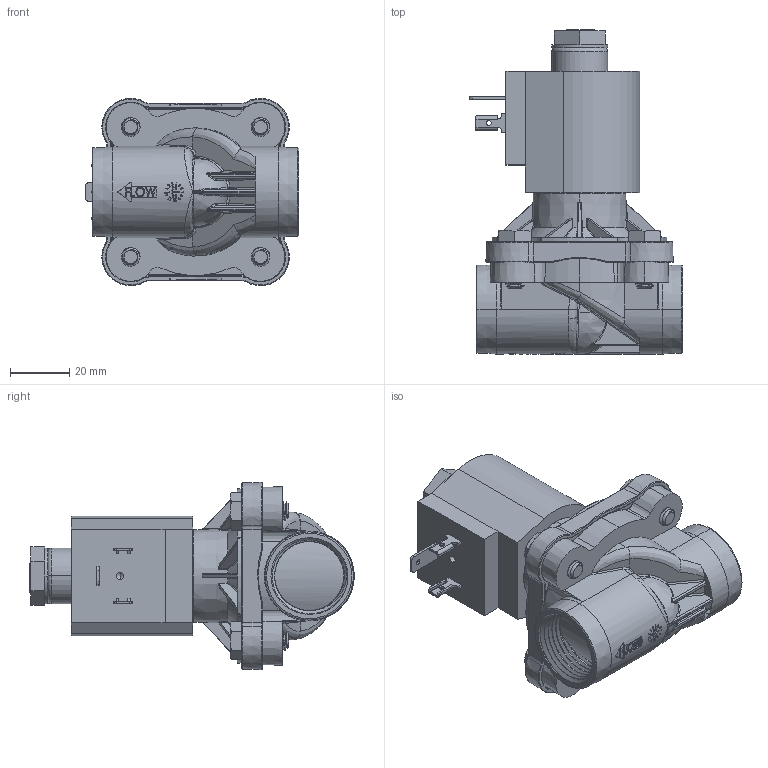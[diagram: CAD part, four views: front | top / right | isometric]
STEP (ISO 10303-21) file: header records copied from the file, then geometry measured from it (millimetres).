
FILE_DESCRIPTION (( 'STEP AP203' ), '1' );
FILE_NAME ('S212YxxxxPEG5.STEP', '2024-05-02T18:00:13', ( '' ), ( '' ), 'SwSTEP 2.0', 'SolidWorks 2023', '' );
FILE_SCHEMA (( 'CONFIG_CONTROL_DESIGN' ));
Length unit declared in the file: millimetre
Products named in the file (1): S212YxxxxPEG5
Bounding box: 72.39 x 109.82 x 63.5 mm (x, y, z)
Volume: 163926.5 mm3; surface area: 33489.9 mm2
Topology: 1 solids, 1 shells, 2064 faces, 5282 edges, 3183 vertices
Faces by surface type: bspline 857, plane 543, cylinder 254, torus 174, cone 151, sphere 85
Entity records: 106903 total; most frequent: CARTESIAN_POINT 64296, ORIENTED_EDGE 10334, DIRECTION 6709, EDGE_CURVE 5167, VERTEX_POINT 3180, AXIS2_PLACEMENT_3D 2464, EDGE_LOOP 2145, ADVANCED_FACE 2064
